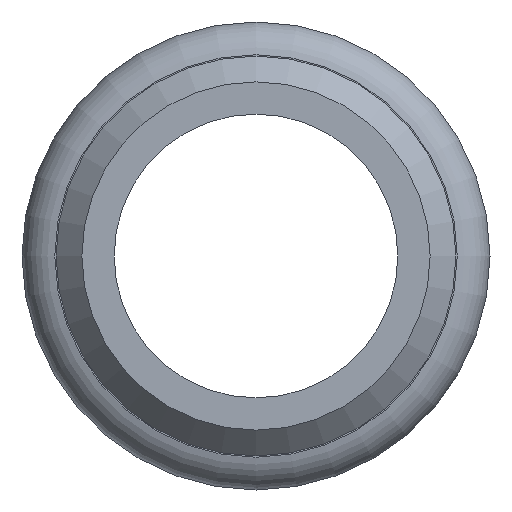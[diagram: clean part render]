
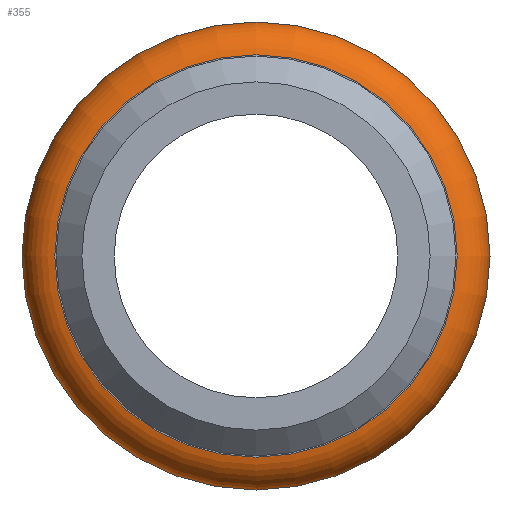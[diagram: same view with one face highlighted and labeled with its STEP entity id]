
A CAD part, front view. The second image highlights one B-rep face of the part: STEP entity #355.
In plain terms, the highlighted toroidal (fillet/blend) face has major radius 3.847 mm and minor radius 0.761 mm.
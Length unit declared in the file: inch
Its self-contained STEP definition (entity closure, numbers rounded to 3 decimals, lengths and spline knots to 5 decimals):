
#63=FACE_OUTER_BOUND('',#84,.T.);
#84=EDGE_LOOP('',(#250,#251,#252,#253));
#114=CIRCLE('',#395,0.02996);
#115=CIRCLE('',#396,0.12149);
#156=VERTEX_POINT('',#600);
#196=EDGE_CURVE('',#156,#156,#114,.T.);
#197=EDGE_CURVE('',#156,#156,#115,.T.);
#250=ORIENTED_EDGE('',*,*,#196,.F.);
#251=ORIENTED_EDGE('',*,*,#197,.T.);
#252=ORIENTED_EDGE('',*,*,#196,.T.);
#253=ORIENTED_EDGE('',*,*,#197,.F.);
#351=TOROIDAL_SURFACE('',#394,0.15145,0.02996);
#355=ADVANCED_FACE('',(#63),#351,.T.);
#394=AXIS2_PLACEMENT_3D('',#599,#463,#464);
#395=AXIS2_PLACEMENT_3D('',#601,#465,#466);
#396=AXIS2_PLACEMENT_3D('',#602,#467,#468);
#463=DIRECTION('center_axis',(0.,-1.,0.));
#464=DIRECTION('ref_axis',(0.,0.,-1.));
#465=DIRECTION('center_axis',(-1.,0.,0.));
#466=DIRECTION('ref_axis',(0.,0.,1.));
#467=DIRECTION('center_axis',(0.,1.,0.));
#468=DIRECTION('ref_axis',(0.,0.,-1.));
#599=CARTESIAN_POINT('Origin',(0.,3.462,0.));
#600=CARTESIAN_POINT('',(0.,3.462,0.12149));
#601=CARTESIAN_POINT('Origin',(0.,3.462,0.15145));
#602=CARTESIAN_POINT('Origin',(0.,3.462,0.));
